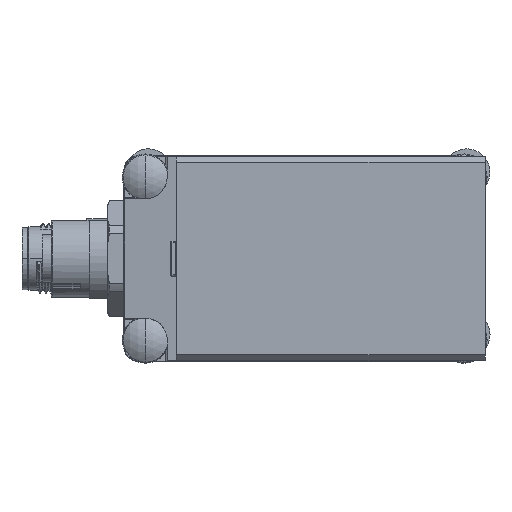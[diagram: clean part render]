
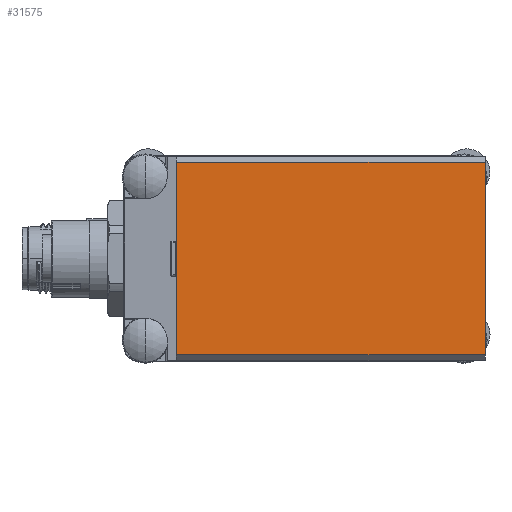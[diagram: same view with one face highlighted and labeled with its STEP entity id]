
A CAD part, front view. The second image highlights one B-rep face of the part: STEP entity #31575.
In plain terms, the highlighted planar face has unit normal (0, -1, 0).
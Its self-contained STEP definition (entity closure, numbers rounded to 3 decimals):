
#8131 = FACE_OUTER_BOUND ( 'NONE', #75418, .T. ) ;
#10991 = ORIENTED_EDGE ( 'NONE', *, *, #98429, .T. ) ;
#11020 = ORIENTED_EDGE ( 'NONE', *, *, #98431, .F. ) ;
#11032 = ORIENTED_EDGE ( 'NONE', *, *, #98430, .T. ) ;
#11233 = ORIENTED_EDGE ( 'NONE', *, *, #98432, .T. ) ;
#15872 = AXIS2_PLACEMENT_3D ( 'NONE', #78569, #78579, #78581 ) ;
#31575 = ADVANCED_FACE ( 'NONE', ( #8131 ), #78566, .F. ) ;
#53311 = VERTEX_POINT ( 'NONE', #88415 ) ;
#53320 = VERTEX_POINT ( 'NONE', #88423 ) ;
#53323 = VERTEX_POINT ( 'NONE', #88425 ) ;
#53325 = VERTEX_POINT ( 'NONE', #88426 ) ;
#75418 = EDGE_LOOP ( 'NONE', ( #10991, #11032, #11020, #11233 ) ) ;
#78566 = PLANE ( 'NONE',  #15872 ) ;
#78569 = CARTESIAN_POINT ( 'NONE',  ( 0., -17.5, 17.5 ) ) ;
#78579 = DIRECTION ( 'NONE',  ( 0., 1., 0. ) ) ;
#78581 = DIRECTION ( 'NONE',  ( 0., 0., 1. ) ) ;
#84481 = CARTESIAN_POINT ( 'NONE',  ( 0., -17.5, -16.5 ) ) ;
#84526 = CARTESIAN_POINT ( 'NONE',  ( -53., -17.5, 17.5 ) ) ;
#84529 = DIRECTION ( 'NONE',  ( 0., 0., -1. ) ) ;
#84531 = DIRECTION ( 'NONE',  ( 1., 0., 0. ) ) ;
#84534 = CARTESIAN_POINT ( 'NONE',  ( 0., -17.5, 17.5 ) ) ;
#84537 = DIRECTION ( 'NONE',  ( 0., 0., -1. ) ) ;
#84538 = CARTESIAN_POINT ( 'NONE',  ( 0., -17.5, 16.5 ) ) ;
#84541 = DIRECTION ( 'NONE',  ( -1., 0., 0. ) ) ;
#88415 = CARTESIAN_POINT ( 'NONE',  ( -53., -17.5, 16.5 ) ) ;
#88423 = CARTESIAN_POINT ( 'NONE',  ( -53., -17.5, -16.5 ) ) ;
#88425 = CARTESIAN_POINT ( 'NONE',  ( 0., -17.5, 16.5 ) ) ;
#88426 = CARTESIAN_POINT ( 'NONE',  ( 0., -17.5, -16.5 ) ) ;
#93030 = LINE ( 'NONE', #84481, #93051 ) ;
#93042 = LINE ( 'NONE', #84526, #93048 ) ;
#93048 = VECTOR ( 'NONE', #84529, 1000. ) ;
#93050 = LINE ( 'NONE', #84534, #93056 ) ;
#93051 = VECTOR ( 'NONE', #84531, 1000. ) ;
#93053 = LINE ( 'NONE', #84538, #93059 ) ;
#93056 = VECTOR ( 'NONE', #84537, 1000. ) ;
#93059 = VECTOR ( 'NONE', #84541, 1000. ) ;
#98429 = EDGE_CURVE ( 'NONE', #53311, #53320, #93042, .T. ) ;
#98430 = EDGE_CURVE ( 'NONE', #53320, #53325, #93030, .T. ) ;
#98431 = EDGE_CURVE ( 'NONE', #53323, #53325, #93050, .T. ) ;
#98432 = EDGE_CURVE ( 'NONE', #53323, #53311, #93053, .T. ) ;
